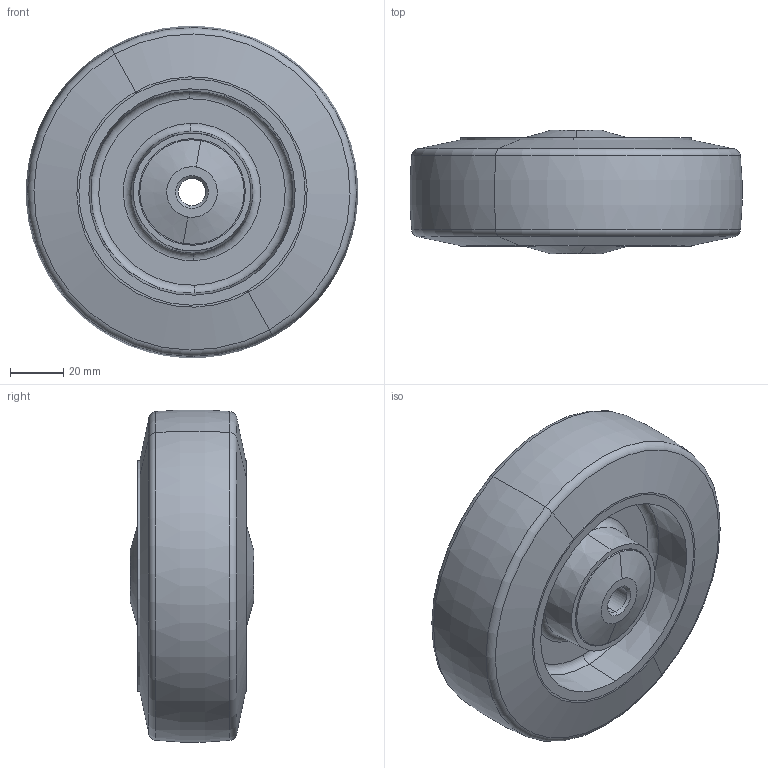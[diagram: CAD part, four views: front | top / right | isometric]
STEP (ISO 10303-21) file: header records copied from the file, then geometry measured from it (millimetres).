
FILE_DESCRIPTION (( 'STEP AP203' ), '1' );
FILE_NAME ('400109_STEP.STEP', '2011-10-21T11:48:43', ( '' ), ( '' ), 'SwSTEP 2.0', 'SolidWorks 2011', '' );
FILE_SCHEMA (( 'CONFIG_CONTROL_DESIGN' ));
Length unit declared in the file: millimetre
Products named in the file (1): 400109_STEP
Bounding box: 124.67 x 46.4 x 124.67 mm (x, y, z)
Surface area: 60912.2 mm2 (no closed solid volume)
Topology: 0 solids, 4 shells, 58 faces, 124 edges, 76 vertices
Faces by surface type: cone 20, cylinder 14, torus 14, plane 10
Entity records: 1666 total; most frequent: DIRECTION 332, CARTESIAN_POINT 259, ORIENTED_EDGE 232, AXIS2_PLACEMENT_3D 149, EDGE_CURVE 124, CIRCLE 90, VERTEX_POINT 76, EDGE_LOOP 68
